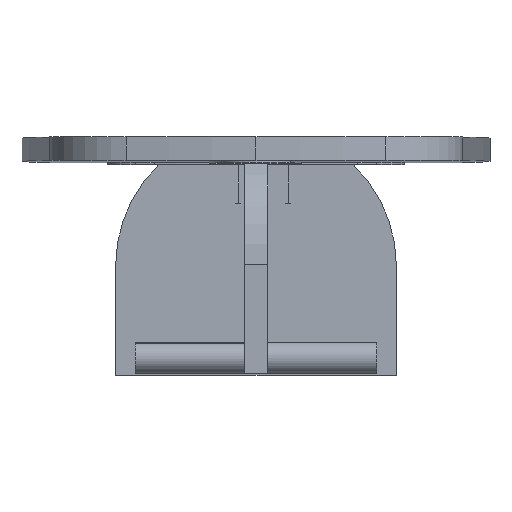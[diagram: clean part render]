
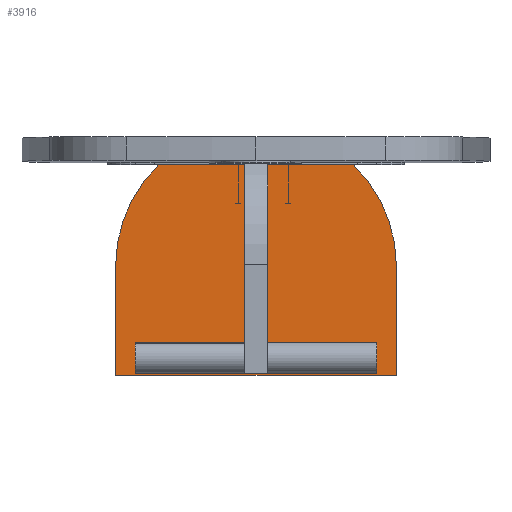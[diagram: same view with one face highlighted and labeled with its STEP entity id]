
A CAD part, top view. The second image highlights one B-rep face of the part: STEP entity #3916.
In plain terms, the highlighted planar face has unit normal (0, 0, 1) as drawn and (0, 0, -1) by its records, which use the part's own axes.
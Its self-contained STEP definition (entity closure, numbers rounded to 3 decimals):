
#7 = ORIENTED_EDGE ( 'NONE', *, *, #35, .T. ) ;
#35 = EDGE_CURVE ( 'NONE', #1571, #4259, #1495, .T. ) ;
#168 = CARTESIAN_POINT ( 'NONE',  ( 0., 140., -15. ) ) ;
#268 = FACE_OUTER_BOUND ( 'NONE', #4139, .T. ) ;
#337 = ORIENTED_EDGE ( 'NONE', *, *, #578, .T. ) ;
#393 = VERTEX_POINT ( 'NONE', #1605 ) ;
#424 = CARTESIAN_POINT ( 'NONE',  ( 0., 140., -15. ) ) ;
#525 = CARTESIAN_POINT ( 'NONE',  ( -124.499, 270., -15. ) ) ;
#550 = VECTOR ( 'NONE', #765, 1000. ) ;
#578 = EDGE_CURVE ( 'NONE', #4259, #393, #4334, .T. ) ;
#598 = CIRCLE ( 'NONE', #3889, 180. ) ;
#627 = VERTEX_POINT ( 'NONE', #1860 ) ;
#719 = VECTOR ( 'NONE', #3003, 1000. ) ;
#765 = DIRECTION ( 'NONE',  ( 1., 0., 0. ) ) ;
#882 = CARTESIAN_POINT ( 'NONE',  ( 0., 140., -15. ) ) ;
#1173 = CARTESIAN_POINT ( 'NONE',  ( -180., 140., -15. ) ) ;
#1347 = ORIENTED_EDGE ( 'NONE', *, *, #1899, .T. ) ;
#1495 = LINE ( 'NONE', #1568, #719 ) ;
#1568 = CARTESIAN_POINT ( 'NONE',  ( 180., 140., -15. ) ) ;
#1571 = VERTEX_POINT ( 'NONE', #2941 ) ;
#1593 = VECTOR ( 'NONE', #3175, 1000. ) ;
#1605 = CARTESIAN_POINT ( 'NONE',  ( -180., 0., -15. ) ) ;
#1782 = VERTEX_POINT ( 'NONE', #1173 ) ;
#1785 = DIRECTION ( 'NONE',  ( 1., 0., 0. ) ) ;
#1860 = CARTESIAN_POINT ( 'NONE',  ( 124.499, 270., -15. ) ) ;
#1899 = EDGE_CURVE ( 'NONE', #3050, #627, #4058, .T. ) ;
#1939 = DIRECTION ( 'NONE',  ( 1., 0., 0. ) ) ;
#2123 = DIRECTION ( 'NONE',  ( 0., 0., 1. ) ) ;
#2268 = DIRECTION ( 'NONE',  ( -1., 0., 0. ) ) ;
#2441 = CARTESIAN_POINT ( 'NONE',  ( 180., 0., -15. ) ) ;
#2515 = VECTOR ( 'NONE', #2268, 1000. ) ;
#2585 = ORIENTED_EDGE ( 'NONE', *, *, #3065, .F. ) ;
#2620 = DIRECTION ( 'NONE',  ( 0., 0., 1. ) ) ;
#2668 = PLANE ( 'NONE',  #4181 ) ;
#2865 = EDGE_CURVE ( 'NONE', #3050, #1782, #4047, .T. ) ;
#2873 = EDGE_CURVE ( 'NONE', #393, #1782, #4106, .T. ) ;
#2881 = ORIENTED_EDGE ( 'NONE', *, *, #2873, .T. ) ;
#2941 = CARTESIAN_POINT ( 'NONE',  ( 180., 140., -15. ) ) ;
#2987 = CARTESIAN_POINT ( 'NONE',  ( 180., 0., -15. ) ) ;
#3003 = DIRECTION ( 'NONE',  ( 0., -1., 0. ) ) ;
#3050 = VERTEX_POINT ( 'NONE', #525 ) ;
#3051 = AXIS2_PLACEMENT_3D ( 'NONE', #424, #2123, #1785 ) ;
#3065 = EDGE_CURVE ( 'NONE', #1571, #627, #598, .T. ) ;
#3175 = DIRECTION ( 'NONE',  ( 0., 1., 0. ) ) ;
#3190 = CARTESIAN_POINT ( 'NONE',  ( -180., 0., -15. ) ) ;
#3510 = ORIENTED_EDGE ( 'NONE', *, *, #2865, .F. ) ;
#3521 = CARTESIAN_POINT ( 'NONE',  ( -124.499, 270., -15. ) ) ;
#3690 = DIRECTION ( 'NONE',  ( 0., 0., 1. ) ) ;
#3889 = AXIS2_PLACEMENT_3D ( 'NONE', #882, #3690, #1939 ) ;
#3916 = ADVANCED_FACE ( 'NONE', ( #268 ), #2668, .F. ) ;
#4047 = CIRCLE ( 'NONE', #3051, 180. ) ;
#4058 = LINE ( 'NONE', #3521, #550 ) ;
#4106 = LINE ( 'NONE', #3190, #1593 ) ;
#4139 = EDGE_LOOP ( 'NONE', ( #2585, #7, #337, #2881, #3510, #1347 ) ) ;
#4181 = AXIS2_PLACEMENT_3D ( 'NONE', #168, #2620, #4420 ) ;
#4259 = VERTEX_POINT ( 'NONE', #2441 ) ;
#4334 = LINE ( 'NONE', #2987, #2515 ) ;
#4420 = DIRECTION ( 'NONE',  ( 1., 0., 0. ) ) ;
